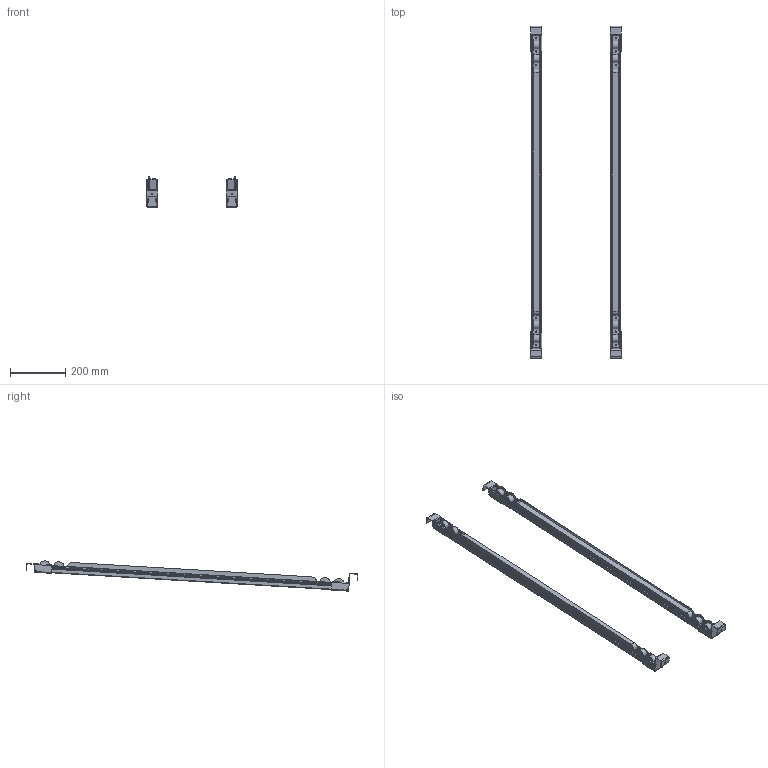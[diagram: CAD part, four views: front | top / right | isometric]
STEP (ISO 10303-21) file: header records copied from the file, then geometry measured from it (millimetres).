
FILE_DESCRIPTION(('STEP AP242'),'1');
FILE_NAME('ALD_GRSV12.stp','2026-01-22T15:21:36',(' '),(' '),'Spatial InterOp 3D',' ',' ');
FILE_SCHEMA(('AP242_MANAGED_MODEL_BASED_3D_ENGINEERING_MIM_LF {1 0 10303 442 1 1 4}'));
Length unit declared in the file: millimetre
Products named in the file (4): ALD_GRSV12; Rail à galets à joue; Support rail à galets; Support rail à galets - avec stoppeur
Assembly tree (6 placements, depth 2):
  ALD_GRSV12
    Rail à galets à joue  x2
    Support rail à galets  x2
    Support rail à galets - avec stoppeur  x2
Bounding box: 327 x 1198.2 x 109.09 mm (x, y, z)
Volume: 1691793 mm3; surface area: 836718.1 mm2
Topology: 6 solids, 6 shells, 528 faces, 1584 edges, 1032 vertices
Faces by surface type: cylinder 292, plane 224, cone 12
Full cylindrical faces by diameter (mm): 2 x88, 4 x36, 28 x8, 40 x8
Entity records: 10803 total; most frequent: CARTESIAN_POINT 1517, DIRECTION 1466, ORIENTED_EDGE 1328, EDGE_CURVE 664, AXIS2_PLACEMENT_3D 551, VERTEX_POINT 462, EDGE_LOOP 426, LINE 364
